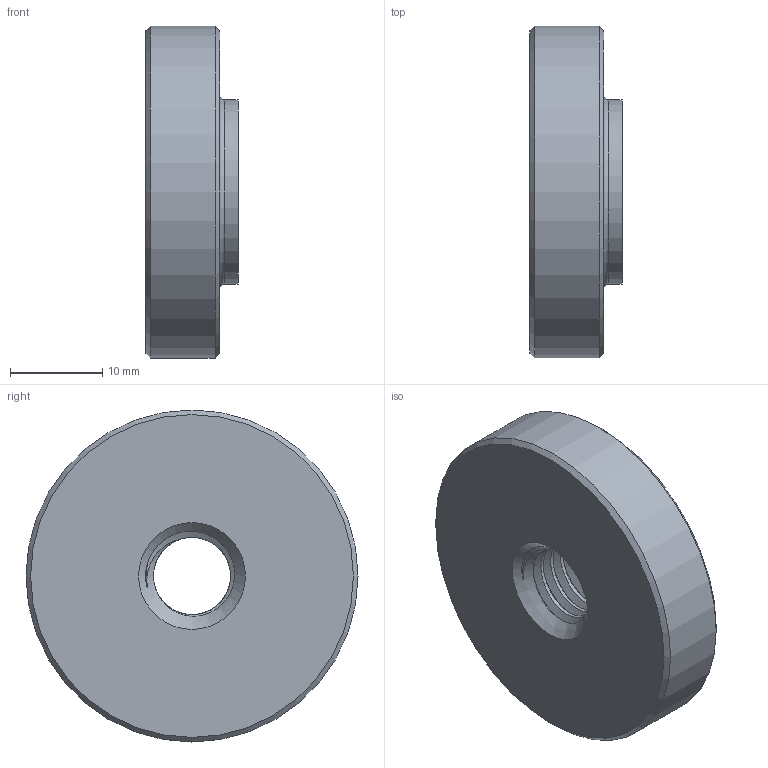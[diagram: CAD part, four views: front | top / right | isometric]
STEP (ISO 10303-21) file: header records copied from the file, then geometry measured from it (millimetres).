
FILE_DESCRIPTION(('STEP AP203'), '1');
FILE_NAME('À00083.110', '2025-03-17T10:21:06', ('1'), (''), 'C3D Converter', 'C3D Toolkit', '');
FILE_SCHEMA(('CONFIG_CONTROL_DESIGN'));
Length unit declared in the file: millimetre
Products named in the file (1): А00083.110
Bounding box: 10 x 36 x 36 mm (x, y, z)
Volume: 8043.8 mm3; surface area: 3249.5 mm2
Topology: 1 solids, 1 shells, 17 faces, 40 edges, 29 vertices
Faces by surface type: cylinder 6, cone 4, bspline 3, plane 3, torus 1
Full cylindrical faces by diameter (mm): 20 x1, 36 x1
Entity records: 5354 total; most frequent: CARTESIAN_POINT 4843, ORIENTED_EDGE 64, DIRECTION 55, EDGE_CURVE 32, EDGE_LOOP 27, AXIS2_PLACEMENT_3D 26, VERTEX_POINT 25, COLOUR_RGB 19
